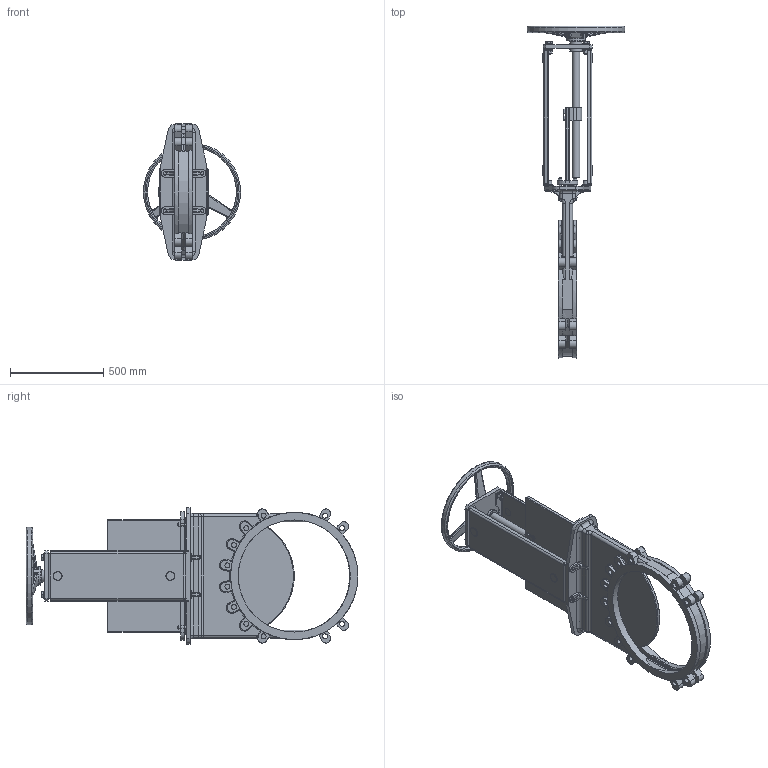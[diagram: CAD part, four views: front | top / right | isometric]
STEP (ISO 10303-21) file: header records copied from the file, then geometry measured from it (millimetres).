
FILE_DESCRIPTION(('STEP AP203'),'1');
FILE_NAME('G:/KONSTRUK/3-d block för CD/WB VALVE/HAND WHEEL/WB-DN600-PN10-HW.stp','2011-11-08T10:29:38',(' '),(' '),'Spatial InterOp 3D',' ',' ');
FILE_SCHEMA(('CONFIG_CONTROL_DESIGN'));
Length unit declared in the file: metre
Products named in the file (4): WB600-PN10-HW; Valve body; Beam
Assembly tree (3 placements, depth 2):
  WB600-PN10-HW
    Valve body
    Beam
    Beam
Bounding box: 520 x 1777.2 x 729 mm (x, y, z)
Volume: 40065432.4 mm3; surface area: 4228887.2 mm2
Topology: 7 solids, 26 shells, 1384 faces, 3210 edges, 1987 vertices
Faces by surface type: plane 644, cylinder 342, cone 255, torus 89, bspline 50, sphere 4
Full cylindrical faces by diameter (mm): 12 x16, 13 x8, 14 x4, 16 x6, 17 x5, 18.5 x4, 20 x12, 21 x12, 24 x8, 27 x24, 30 x9, 37 x12, 40 x3, 43 x5, 49 x4, 64 x2, 65 x2, 70 x1, 100 x1, 476 x1, 520 x1, 600 x2, 682 x2
Entity records: 54403 total; most frequent: CARTESIAN_POINT 24927, DIRECTION 5972, ORIENTED_EDGE 5934, EDGE_CURVE 2967, AXIS2_PLACEMENT_3D 2394, VERTEX_POINT 1946, EDGE_LOOP 1757, FACE_OUTER_BOUND 1540
